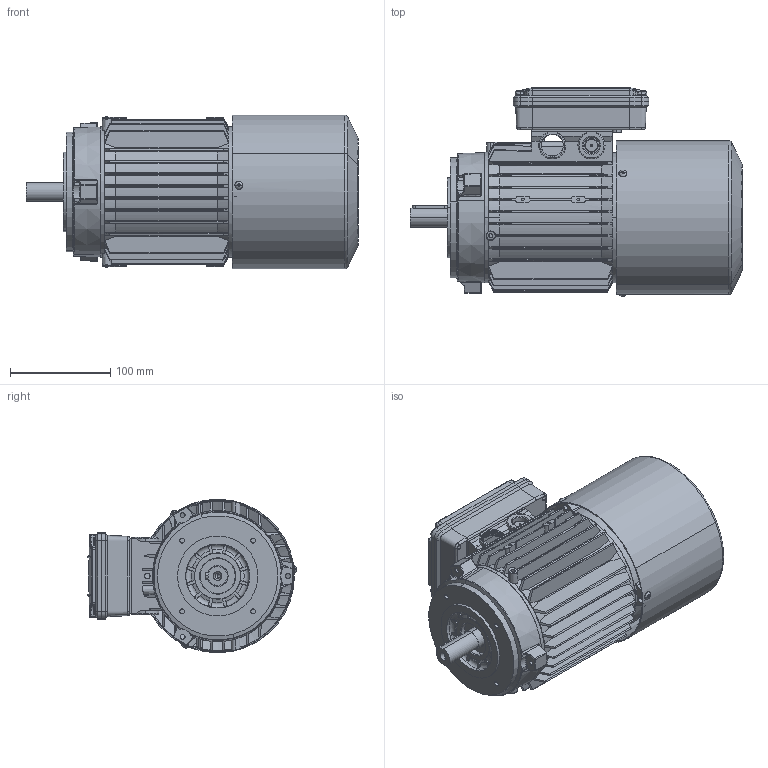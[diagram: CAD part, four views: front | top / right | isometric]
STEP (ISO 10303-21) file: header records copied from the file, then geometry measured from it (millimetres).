
FILE_DESCRIPTION (( 'STEP AP214' ), '1' );
FILE_NAME ('M14DC0011.STEP', '2019-01-31T15:29:06', ( '' ), ( '' ), 'SwSTEP 2.0', 'SolidWorks 2018', '' );
FILE_SCHEMA (( 'AUTOMOTIVE_DESIGN' ));
Length unit declared in the file: millimetre
Products named in the file (13): Scatola per Morsettiera Doppia 63-71-80 - Completa; Guarnizione Scatola Singola 63-71-80; Vite per coperchio morsettiera; Coperchio per Scatola per Morsettiera Doppia 63-71-80; Scatola per Morsettiera Doppia 63-71-80; Vite testa rotonda M3; Scudo Lato Freno P1 BM 80 - DCAH0195; Cuffia BM 80 - DCAL0097; Scudo a flangia B14 BA-BM 80 - DCAC0194; Chiavetta 80; Albero BM 80; Carcassa 80 B5; M14DC0011
Assembly tree (17 placements, depth 3):
  M14DC0011
    Carcassa 80 B5
    Albero BM 80
    Chiavetta 80
    Scudo a flangia B14 BA-BM 80 - DCAC0194
    Cuffia BM 80 - DCAL0097
    Scudo Lato Freno P1 BM 80 - DCAH0195
    Vite testa rotonda M3  x3
    Scatola per Morsettiera Doppia 63-71-80 - Completa
      Scatola per Morsettiera Doppia 63-71-80
      Coperchio per Scatola per Morsettiera Doppia 63-71-80
      Vite per coperchio morsettiera  x4
      Guarnizione Scatola Singola 63-71-80
Bounding box: 330.75 x 207.88 x 153 mm (x, y, z)
Volume: 850874 mm3; surface area: 578521.1 mm2
Topology: 16 solids, 16 shells, 2663 faces, 7263 edges, 4661 vertices
Faces by surface type: cylinder 994, plane 937, torus 307, cone 268, bspline 143, sphere 14
Entity records: 90712 total; most frequent: CARTESIAN_POINT 30148, ORIENTED_EDGE 13084, DIRECTION 11930, EDGE_CURVE 6542, AXIS2_PLACEMENT_3D 4544, VERTEX_POINT 4227, VECTOR 2842, LINE 2842
